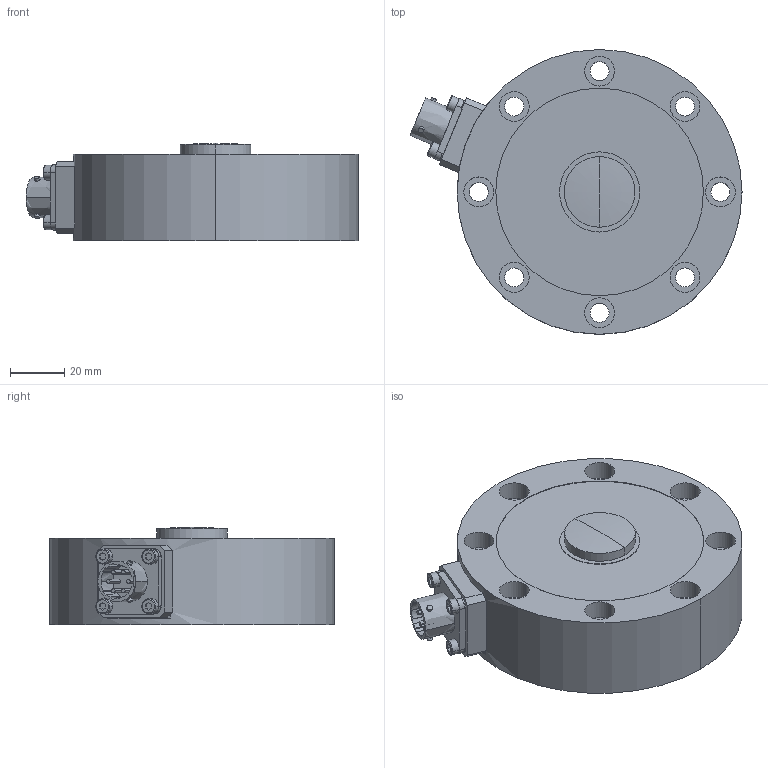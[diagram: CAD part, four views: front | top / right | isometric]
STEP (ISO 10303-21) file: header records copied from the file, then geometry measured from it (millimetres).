
FILE_DESCRIPTION((''),'2;1');
FILE_NAME('C10_5KN_FLANGE','2019-08-22T',('ESCHE'),(''),'CREO PARAMETRIC BY PTC INC, 2017170','CREO PARAMETRIC BY PTC INC, 2017170','');
FILE_SCHEMA(('AUTOMOTIVE_DESIGN { 1 0 10303 214 1 1 1 1 }'));
Length unit declared in the file: millimetre
Products named in the file (1): C10_5KN_FLANGE
Bounding box: 122.16 x 104.8 x 35.7 mm (x, y, z)
Volume: 256803.8 mm3; surface area: 37041.2 mm2
Topology: 1 solids, 2 shells, 207 faces, 515 edges, 337 vertices
Faces by surface type: bspline 207
Entity records: 8373 total; most frequent: CARTESIAN_POINT 3777, ORIENTED_EDGE 1026, DIRECTION 723, EDGE_CURVE 513, VERTEX_POINT 337, VECTOR 259, LINE 259, EDGE_LOOP 252
